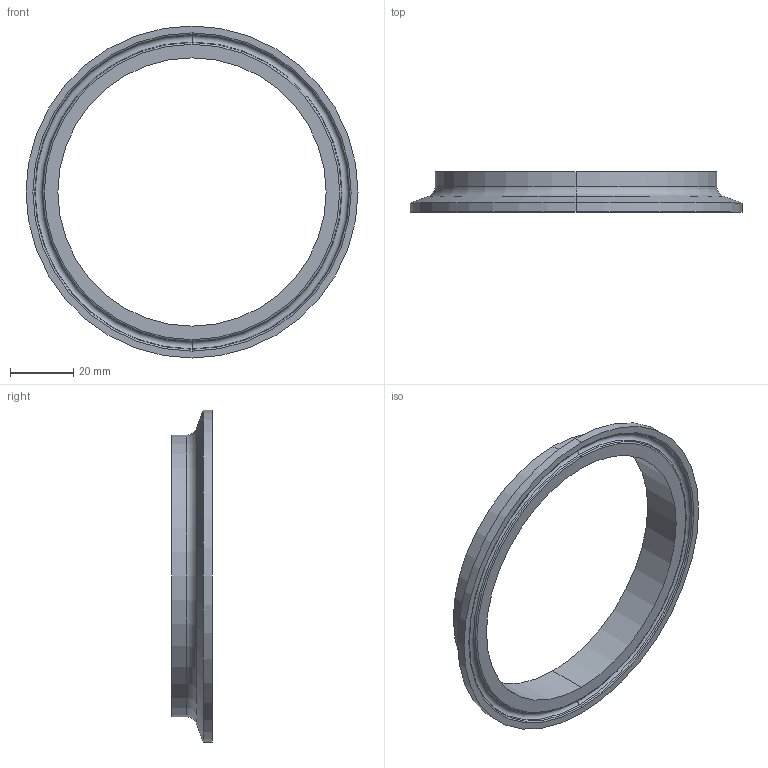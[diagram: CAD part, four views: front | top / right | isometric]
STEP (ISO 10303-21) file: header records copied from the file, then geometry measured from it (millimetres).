
FILE_DESCRIPTION (( 'STEP AP214' ), '1' );
FILE_NAME ('EG2CS-5-3.0.STEP', '2025-08-07T18:37:44', ( '' ), ( '' ), 'SwSTEP 2.0', 'SolidWorks 2022', '' );
FILE_SCHEMA (( 'AUTOMOTIVE_DESIGN' ));
Length unit declared in the file: inch
Products named in the file (1): EG2CS-5-3.0
Bounding box: 104.78 x 12.7 x 104.78 mm (x, y, z)
Volume: 16771.8 mm3; surface area: 12724.2 mm2
Topology: 1 solids, 1 shells, 23 faces, 46 edges, 26 vertices
Faces by surface type: torus 8, cylinder 6, cone 6, plane 3
Entity records: 646 total; most frequent: DIRECTION 128, CARTESIAN_POINT 96, ORIENTED_EDGE 92, AXIS2_PLACEMENT_3D 58, EDGE_CURVE 46, CIRCLE 34, VERTEX_POINT 26, EDGE_LOOP 26
